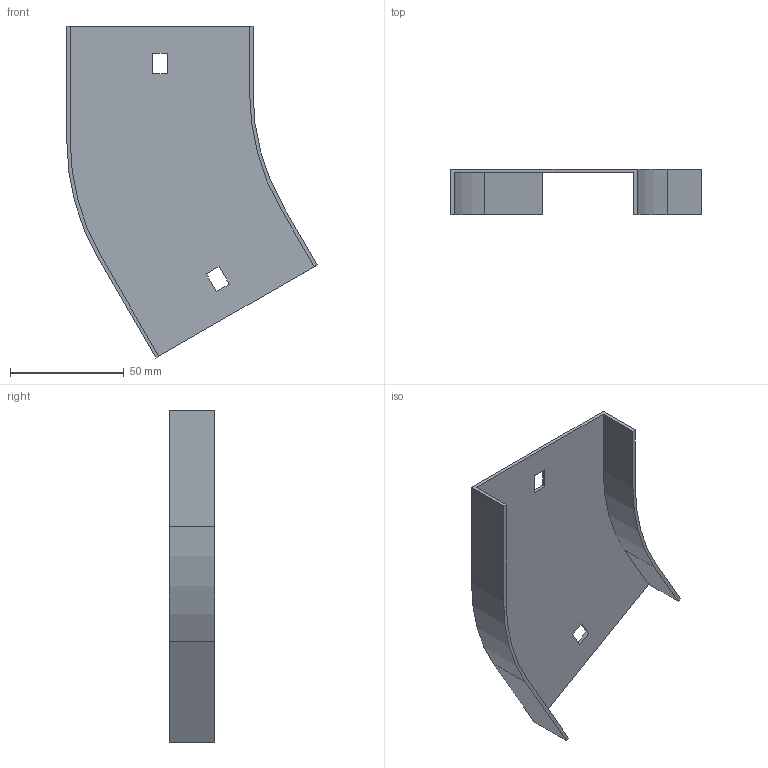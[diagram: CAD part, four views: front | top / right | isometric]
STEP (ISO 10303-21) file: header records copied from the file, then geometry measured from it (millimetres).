
FILE_DESCRIPTION (( 'STEP AP214' ), '1' );
FILE_NAME ('12G1P075.step', '2025-02-21T12:45:12', ( '' ), ( '' ), 'SwSTEP 2.0', 'SolidWorks 2023', '' );
FILE_SCHEMA (( 'AUTOMOTIVE_DESIGN' ));
Length unit declared in the file: millimetre
Products named in the file (1): 12G1P075
Bounding box: 110.2 x 20 x 146.23 mm (x, y, z)
Volume: 23805 mm3; surface area: 32590.5 mm2
Topology: 1 solids, 1 shells, 26 faces, 72 edges, 48 vertices
Faces by surface type: plane 22, cylinder 4
Entity records: 855 total; most frequent: CARTESIAN_POINT 147, ORIENTED_EDGE 144, DIRECTION 134, EDGE_CURVE 72, VECTOR 64, LINE 64, VERTEX_POINT 48, AXIS2_PLACEMENT_3D 35
